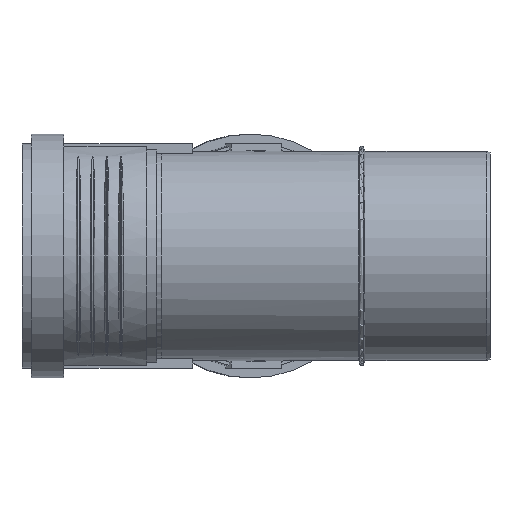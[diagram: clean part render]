
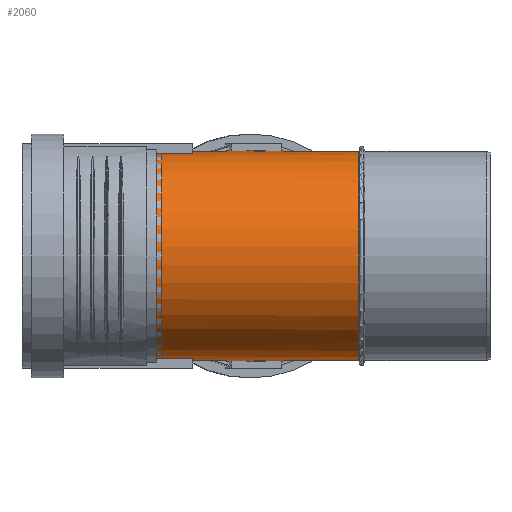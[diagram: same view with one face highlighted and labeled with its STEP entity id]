
A CAD part, left-side view. The second image highlights one B-rep face of the part: STEP entity #2060.
In plain terms, the highlighted cylindrical face has radius 62.6 mm (diameter 125.2 mm), a partial arc.
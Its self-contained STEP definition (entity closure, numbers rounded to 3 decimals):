
#176=ELLIPSE($,#2201,86.66,62.6);
#177=ELLIPSE($,#2202,90.526,62.6);
#178=ELLIPSE($,#2204,90.526,62.6);
#179=ELLIPSE($,#2205,86.66,62.6);
#270=CYLINDRICAL_SURFACE($,#2200,62.6);
#600=FACE_OUTER_BOUND($,#722,.T.);
#722=EDGE_LOOP($,(#1495,#1496,#1497,#1498,#1499,#1500));
#893=CIRCLE($,#2196,62.6);
#895=CIRCLE($,#2203,62.6);
#992=VERTEX_POINT($,#3082);
#993=VERTEX_POINT($,#3083);
#995=VERTEX_POINT($,#3112);
#996=VERTEX_POINT($,#3114);
#997=VERTEX_POINT($,#3116);
#998=VERTEX_POINT($,#3118);
#1204=EDGE_CURVE($,#993,#992,#893,.T.);
#1206=EDGE_CURVE($,#992,#995,#176,.T.);
#1207=EDGE_CURVE($,#995,#996,#177,.T.);
#1208=EDGE_CURVE($,#996,#997,#895,.T.);
#1209=EDGE_CURVE($,#997,#998,#178,.T.);
#1210=EDGE_CURVE($,#998,#993,#179,.T.);
#1495=ORIENTED_EDGE($,*,*,#1204,.T.);
#1496=ORIENTED_EDGE($,*,*,#1206,.T.);
#1497=ORIENTED_EDGE($,*,*,#1207,.T.);
#1498=ORIENTED_EDGE($,*,*,#1208,.T.);
#1499=ORIENTED_EDGE($,*,*,#1209,.T.);
#1500=ORIENTED_EDGE($,*,*,#1210,.T.);
#2060=ADVANCED_FACE($,(#600),#270,.T.);
#2196=AXIS2_PLACEMENT_3D($,#3106,#2444,#2445);
#2200=AXIS2_PLACEMENT_3D($,#3111,#2452,#2453);
#2201=AXIS2_PLACEMENT_3D($,#3113,#2454,#2455);
#2202=AXIS2_PLACEMENT_3D($,#3115,#2456,#2457);
#2203=AXIS2_PLACEMENT_3D($,#3117,#2458,#2459);
#2204=AXIS2_PLACEMENT_3D($,#3119,#2460,#2461);
#2205=AXIS2_PLACEMENT_3D($,#3120,#2462,#2463);
#2444=DIRECTION('center_axis',(0.,1.,0.));
#2445=DIRECTION('ref_axis',(1.,0.,0.));
#2452=DIRECTION('center_axis',(0.,1.,0.));
#2453=DIRECTION('ref_axis',(1.,0.,0.));
#2454=DIRECTION('center_axis',(-0.692,-0.722,0.));
#2455=DIRECTION('ref_axis',(0.722,-0.692,0.));
#2456=DIRECTION('center_axis',(-0.722,0.692,0.));
#2457=DIRECTION('ref_axis',(-0.692,-0.722,0.));
#2458=DIRECTION('center_axis',(0.,-1.,0.));
#2459=DIRECTION('ref_axis',(1.,0.,0.));
#2460=DIRECTION('center_axis',(-0.722,0.692,0.));
#2461=DIRECTION('ref_axis',(-0.692,-0.722,0.));
#2462=DIRECTION('center_axis',(-0.692,-0.722,0.));
#2463=DIRECTION('ref_axis',(0.722,-0.692,0.));
#3082=CARTESIAN_POINT('',(62.322,78.5,5.897));
#3083=CARTESIAN_POINT('',(62.322,78.5,-5.897));
#3106=CARTESIAN_POINT('Origin',(0.,78.5,0.));
#3111=CARTESIAN_POINT('Origin',(0.,0.,0.));
#3112=CARTESIAN_POINT('',(0.,138.16,62.6));
#3113=CARTESIAN_POINT('Origin',(0.,138.16,0.));
#3114=CARTESIAN_POINT('',(59.448,200.26,19.614));
#3115=CARTESIAN_POINT('Origin',(0.,138.16,0.));
#3116=CARTESIAN_POINT('',(59.448,200.26,-19.614));
#3117=CARTESIAN_POINT('Origin',(0.,200.26,0.));
#3118=CARTESIAN_POINT('',(0.,138.16,-62.6));
#3119=CARTESIAN_POINT('Origin',(0.,138.16,0.));
#3120=CARTESIAN_POINT('Origin',(0.,138.16,0.));
